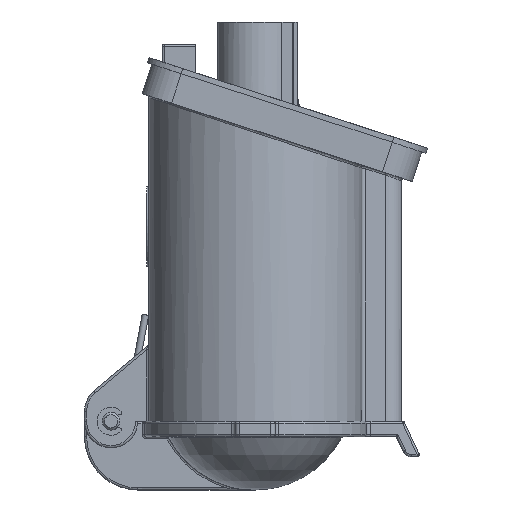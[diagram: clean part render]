
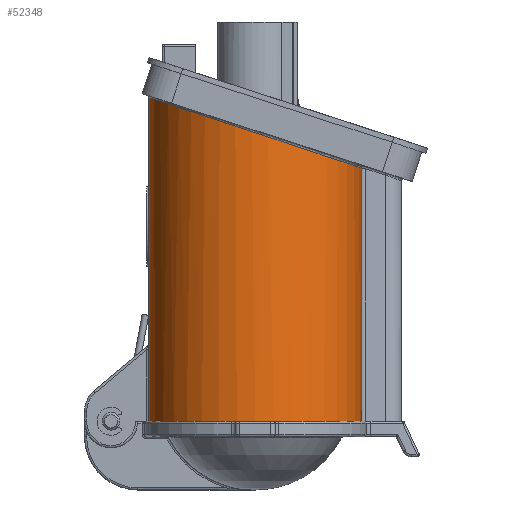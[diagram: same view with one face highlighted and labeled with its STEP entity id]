
A CAD part, left-side view. The second image highlights one B-rep face of the part: STEP entity #52348.
In plain terms, the highlighted cylindrical face has radius 24 mm (diameter 48 mm), a partial arc.
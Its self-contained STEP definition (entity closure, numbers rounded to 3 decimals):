
#3532=CARTESIAN_POINT('',(-31.,24.,0.0));
#3533=VERTEX_POINT('',#3532);
#3540=CARTESIAN_POINT('',(-31.,24.,72.992));
#3541=VERTEX_POINT('',#3540);
#3542=CARTESIAN_POINT('',(-31.,24.,0.0));
#3543=DIRECTION('',(0.0,0.0,1.0));
#3544=VECTOR('',#3543,72.992);
#3545=LINE('',#3542,#3544);
#3546=EDGE_CURVE('',#3533,#3541,#3545,.T.);
#45859=CARTESIAN_POINT('',(-31.,-24.,0.0));
#45860=VERTEX_POINT('',#45859);
#45867=CARTESIAN_POINT('',(-31.0,0.0,0.0));
#45868=DIRECTION('',(0.0,0.0,-1.0));
#45869=DIRECTION('',(0.0,-1.0,0.0));
#45870=AXIS2_PLACEMENT_3D('',#45867,#45868,#45869);
#45871=CIRCLE('',#45870,24.0);
#45872=EDGE_CURVE('',#45860,#3533,#45871,.T.);
#51716=CARTESIAN_POINT('',(-31.,-24.,57.071));
#51717=VERTEX_POINT('',#51716);
#51828=CARTESIAN_POINT('',(-31.0,0.0,65.031));
#51829=DIRECTION('',(0.,-0.315,0.949));
#51830=DIRECTION('',(0.,0.949,0.315));
#51831=AXIS2_PLACEMENT_3D('',#51828,#51829,#51830);
#51832=ELLIPSE('',#51831,25.286,24.0);
#51833=EDGE_CURVE('',#3541,#51717,#51832,.T.);
#52326=CARTESIAN_POINT('',(-31.,-24.,0.0));
#52327=DIRECTION('',(0.0,0.0,1.0));
#52328=VECTOR('',#52327,57.071);
#52329=LINE('',#52326,#52328);
#52330=EDGE_CURVE('',#45860,#51717,#52329,.T.);
#52337=CARTESIAN_POINT('',(-31.0,0.0,0.0));
#52338=DIRECTION('',(0.0,0.0,1.0));
#52339=DIRECTION('',(0.0,-1.0,0.0));
#52340=AXIS2_PLACEMENT_3D('',#52337,#52338,#52339);
#52341=CYLINDRICAL_SURFACE('',#52340,24.0);
#52342=ORIENTED_EDGE('',*,*,#51833,.F.);
#52343=ORIENTED_EDGE('',*,*,#3546,.F.);
#52344=ORIENTED_EDGE('',*,*,#45872,.F.);
#52345=ORIENTED_EDGE('',*,*,#52330,.T.);
#52346=EDGE_LOOP('',(#52342,#52343,#52344,#52345));
#52347=FACE_OUTER_BOUND('',#52346,.T.);
#52348=ADVANCED_FACE('',(#52347),#52341,.T.);
